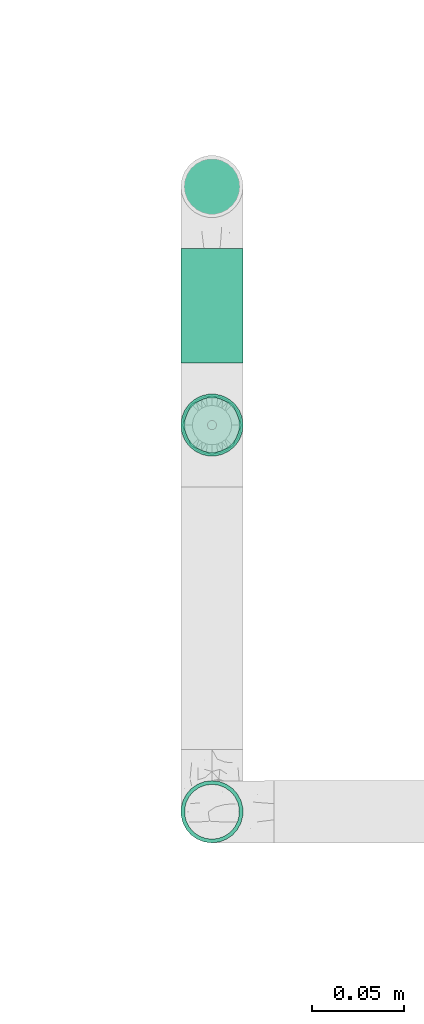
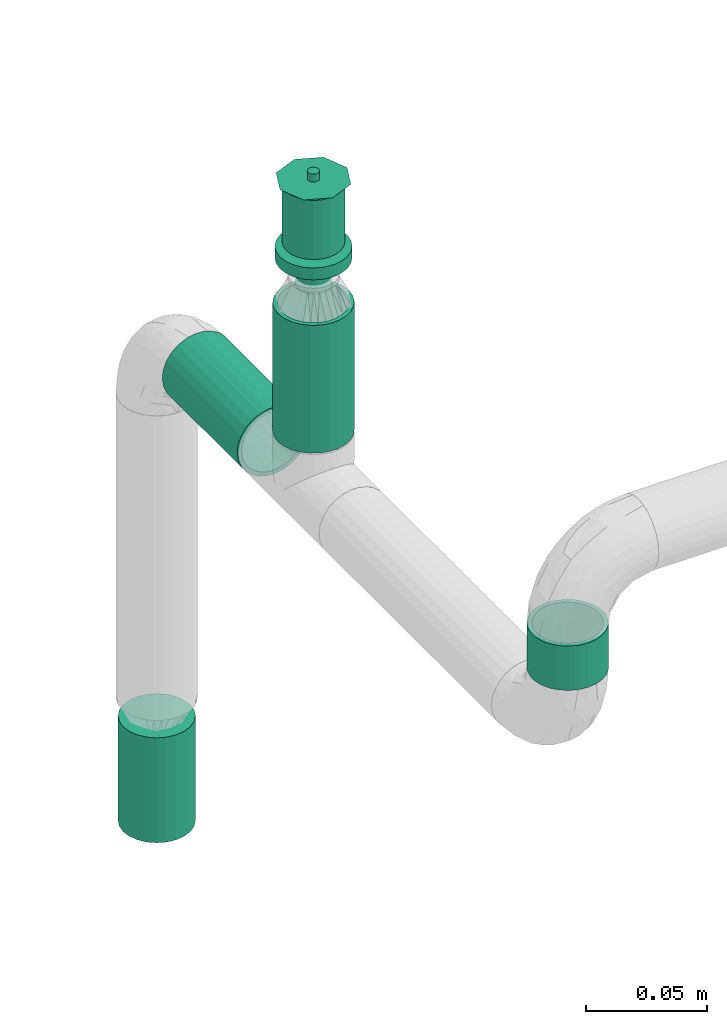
# One storey, part 118 of 157: 3 flow segments, 2 flow terminals.
"""IFC2X3 building model written with IfcOpenShell, lengths in millimetres."""

import ifcopenshell
import ifcopenshell.guid

model = None  # the IFC model being written
_history = None  # IfcOwnerHistory: only IFC2X3 demands one
_inside = {}  # id of a spatial element -> (the spatial element, [elements in it])
_under = {}  # id of a project, library or spatial element -> (it, [spatial elements below it])
_declared = {}  # id of a project -> (the project, [libraries it declares])
_typed = {}  # id of a type object -> (the type object, [elements of that type])
_made_of = {}  # id of a material, layer set ... -> (it, [elements and type objects made of it])


def new_model(schema):
    """Start an empty IFC model of exactly this schema.

    Asked for "IFC4X3", IfcOpenShell would pick the latest addendum, in which some entities
    have other attributes; the version numbers below select the first issue.
    IFC2X3 requires an IfcOwnerHistory on every rooted entity: one is made here for all.
    """
    global model, _history
    if schema == "IFC4X3":
        model = ifcopenshell.file(schema_version=(4, 3, 0, 0))
    else:
        model = ifcopenshell.file(schema=schema)
    _inside.clear()
    _under.clear()
    _declared.clear()
    _typed.clear()
    _made_of.clear()
    _history = None
    if model.schema == "IFC2X3":
        org = make("IfcOrganization", Name="unknown")
        user = make(
            "IfcPersonAndOrganization",
            ThePerson=make("IfcPerson", FamilyName="unknown"),
            TheOrganization=org,
        )
        app = make(
            "IfcApplication",
            ApplicationDeveloper=org,
            Version="unknown",
            ApplicationFullName="unknown",
            ApplicationIdentifier="unknown",
        )
        _history = make(
            "IfcOwnerHistory",
            OwningUser=user,
            OwningApplication=app,
            ChangeAction="ADDED",
            CreationDate=0,
        )
    return model


def make(cls, **values):
    """One entity of the class cls with the attributes given. An attribute that is None is left unset."""
    return model.create_entity(
        cls, **{name: value for name, value in values.items() if value is not None}
    )


def entity(cls, *values):
    """Any entity or typed value of the class cls, its attributes in the order of the schema. None: left unset."""
    e = model.create_entity(cls)
    for i, value in enumerate(values):
        if value is not None:
            e[i] = value
    return e


def rooted(cls, **values):
    """An entity with a GlobalId (a new one), such as an element, a storey or a relation."""
    return make(cls, GlobalId=ifcopenshell.guid.new(), OwnerHistory=_history, **values)


def si_unit(unit_type, name, prefix=None):
    """IfcSIUnit, for example si_unit("LENGTHUNIT", "METRE", prefix="MILLI")."""
    return make("IfcSIUnit", UnitType=unit_type, Prefix=prefix, Name=name)


def converted_unit(unit_type, name, factor, base, dimensions=None, offset=None):
    """IfcConversionBasedUnit, such as the inch: factor (a typed value) times the base unit."""
    return make(
        "IfcConversionBasedUnit"
        if offset is None
        else "IfcConversionBasedUnitWithOffset",
        ConversionOffset=offset,
        Dimensions=None
        if dimensions is None
        else entity("IfcDimensionalExponents", *dimensions),
        UnitType=unit_type,
        Name=name,
        ConversionFactor=make(
            "IfcMeasureWithUnit", ValueComponent=factor, UnitComponent=base
        ),
    )


def derived_unit(unit_type, elements):
    """IfcDerivedUnit: a product of units, each with its exponent."""
    return make(
        "IfcDerivedUnit",
        Elements=[
            make("IfcDerivedUnitElement", Unit=unit, Exponent=power)
            for unit, power in elements
        ],
        UnitType=unit_type,
    )


def assignment(units):
    """IfcUnitAssignment: the units of a project."""
    return None if units is None else make("IfcUnitAssignment", Units=units)


def point(xyz):
    """IfcCartesianPoint."""
    return None if xyz is None else make("IfcCartesianPoint", Coordinates=xyz)


def direction(xyz):
    """IfcDirection."""
    return None if xyz is None else make("IfcDirection", DirectionRatios=xyz)


def frame(location, z_axis=None, x_axis=None):
    """IfcAxis2Placement3D, a coordinate frame: its origin and axes. An axis left out is left unset."""
    return make(
        "IfcAxis2Placement3D",
        Location=point(location),
        Axis=direction(z_axis),
        RefDirection=direction(x_axis),
    )


def frame_2d(location, x_axis=None):
    """IfcAxis2Placement2D, a coordinate frame in the plane: its origin and x axis."""
    return make(
        "IfcAxis2Placement2D", Location=point(location), RefDirection=direction(x_axis)
    )


def origin_with_axes():
    """The frame at (0, 0, 0) with the z axis (0, 0, 1) and the x axis (1, 0, 0) written out."""
    return frame((0.0, 0.0, 0.0), z_axis=(0.0, 0.0, 1.0), x_axis=(1.0, 0.0, 0.0))


def origin_2d_with_axis():
    """The frame at (0, 0) in the plane with the x axis (1, 0) written out."""
    return frame_2d((0.0, 0.0), x_axis=(1.0, 0.0))


def place(relative_to, where):
    """IfcLocalPlacement: puts the frame where relative to a parent placement (None: the world)."""
    return make(
        "IfcLocalPlacement", PlacementRelTo=relative_to, RelativePlacement=where
    )


def context(
    kind, dimensions, precision=None, world=None, true_north=None, identifier=None
):
    """IfcGeometricRepresentationContext, for example the 3D "Model" context."""
    return make(
        "IfcGeometricRepresentationContext",
        ContextIdentifier=identifier,
        ContextType=kind,
        CoordinateSpaceDimension=dimensions,
        Precision=precision,
        WorldCoordinateSystem=world,
        TrueNorth=true_north,
    )


def subcontext(parent, identifier, kind, view, scale=None):
    """IfcGeometricRepresentationSubContext, for example "Body" below "Model"."""
    return make(
        "IfcGeometricRepresentationSubContext",
        ContextIdentifier=identifier,
        ContextType=kind,
        ParentContext=parent,
        TargetScale=scale,
        TargetView=view,
    )


def project(units=None, contexts=None):
    """IfcProject with its units and contexts."""
    return rooted(
        "IfcProject",
        Name="project",
        RepresentationContexts=contexts,
        UnitsInContext=assignment(units),
    )


def spatial(cls, under=None, at=None, **own):
    """A site, building, storey or space (cls), placed at a placement, below another one or the project."""
    s = rooted(cls, ObjectPlacement=at, **own)
    if under is not None:
        _under.setdefault(under.id(), (under, []))[1].append(s)
    return s


def profile(cls, at=None, kind="AREA", **sizes):
    """A parametric profile (cls). Its sizes go by their IFC names, for example OverallWidth=200.0."""
    return make(cls, ProfileType=kind, Position=at, **sizes)


def hollow_circle(**sizes):
    """IfcCircleHollowProfileDef."""
    return profile("IfcCircleHollowProfileDef", **sizes)


def extrude(swept, where, along, depth):
    """IfcExtrudedAreaSolid: the profile swept, set in the frame where, extruded along a direction by depth."""
    return make(
        "IfcExtrudedAreaSolid",
        SweptArea=swept,
        Position=where,
        ExtrudedDirection=direction(along),
        Depth=depth,
    )


def faces_of(points, faces, orient=None, outer=None):
    """IfcFace entities. A face is a list of loops; a loop is a list of indices into points, from 0.

    orient and outer hold one flag for each loop. By default every Orientation is true, the
    first loop of a face is its IfcFaceOuterBound and the others are IfcFaceBound.
    """
    made = []
    for i, loops in enumerate(faces):
        bounds = []
        for j, loop in enumerate(loops):
            is_outer = j == 0 if outer is None else outer[i][j]
            bounds.append(
                make(
                    "IfcFaceOuterBound" if is_outer else "IfcFaceBound",
                    Bound=make("IfcPolyLoop", Polygon=[points[k] for k in loop]),
                    Orientation=True if orient is None else orient[i][j],
                )
            )
        made.append(make("IfcFace", Bounds=bounds))
    return made


def open_shell(faces, orient=None, outer=None):
    """The faces of one IfcOpenShell. surface_model builds it on its shared points."""
    return ("IfcOpenShell", faces, orient, outer)


def surface_model(cls, points, shells):
    """IfcFaceBasedSurfaceModel or IfcShellBasedSurfaceModel (cls): surfaces that need not close."""
    shared = [point(p) for p in points]
    made = [make(c, CfsFaces=faces_of(shared, fs, o, b)) for c, fs, o, b in shells]
    if cls == "IfcFaceBasedSurfaceModel":
        return make(cls, FbsmFaces=made)
    return make(cls, SbsmBoundary=made)


def shape(context_of_items, identifier, shape_type, items):
    """IfcShapeRepresentation: the items that make up one representation, for example the "Body"."""
    return make(
        "IfcShapeRepresentation",
        ContextOfItems=context_of_items,
        RepresentationIdentifier=identifier,
        RepresentationType=shape_type,
        Items=items,
    )


def source(mapping_origin, context_of_items, identifier, shape_type, items):
    """IfcRepresentationMap: a shape defined once, which mapped items show again and again."""
    return make(
        "IfcRepresentationMap",
        MappingOrigin=mapping_origin,
        MappedRepresentation=shape(context_of_items, identifier, shape_type, items),
    )


def transform(
    local_origin,
    x_axis=None,
    y_axis=None,
    z_axis=None,
    scale=None,
    scale2=None,
    scale3=None,
    uniform=True,
):
    """IfcCartesianTransformationOperator3D, or its non-uniform kind. x_axis, y_axis, z_axis: its Axis1, 2, 3."""
    if uniform:
        return make(
            "IfcCartesianTransformationOperator3D",
            Axis1=direction(x_axis),
            Axis2=direction(y_axis),
            LocalOrigin=point(local_origin),
            Scale=scale,
            Axis3=direction(z_axis),
        )
    return make(
        "IfcCartesianTransformationOperator3DnonUniform",
        Axis1=direction(x_axis),
        Axis2=direction(y_axis),
        LocalOrigin=point(local_origin),
        Scale=scale,
        Axis3=direction(z_axis),
        Scale2=scale2,
        Scale3=scale3,
    )


def mapped(mapping_source, mapping_target):
    """IfcMappedItem: shows the shape of a source again, moved by a transform."""
    return make(
        "IfcMappedItem", MappingSource=mapping_source, MappingTarget=mapping_target
    )


def made_of(thing, what):
    """Note that an element or type object is made of a material, layer set ...; save() writes the relation."""
    if what is not None:
        _made_of.setdefault(what.id(), (what, []))[1].append(thing)
    return thing


def type_object(cls, material=None, **own):
    """A type object (cls), such as IfcWallType, which elements share."""
    return made_of(rooted(cls, **own), material)


def element(
    cls,
    number,
    at=None,
    inside=None,
    cuts=None,
    type_object=None,
    material=None,
    context=None,
    identifier="Body",
    shape_type=None,
    held_by="IfcProductDefinitionShape",
    body=None,
    shapes=None,
    **own,
):
    """One element of the class cls, such as IfcWall. Its Tag is "e" and its number.

    at: its placement. inside: the storey or other place that contains it. cuts: it is an
    opening in that element (IfcRelVoidsElement). A single representation is given by context,
    identifier, shape_type and body (its items); several are given by shapes. held_by: the class
    of the entity that holds the representations. save() writes the other relations.
    """
    e = rooted(cls, Tag="e%d" % number, ObjectPlacement=at, **own)
    if body is not None:
        shapes = [shape(context, identifier, shape_type, body)]
    if shapes is not None:
        e.Representation = make(held_by, Representations=shapes)
    if inside is not None:
        _inside.setdefault(inside.id(), (inside, []))[1].append(e)
    if cuts is not None:
        rooted(
            "IfcRelVoidsElement", RelatingBuildingElement=cuts, RelatedOpeningElement=e
        )
    if type_object is not None:
        _typed.setdefault(type_object.id(), (type_object, []))[1].append(e)
    return made_of(e, material)


def aggregate(whole, parts):
    """IfcRelAggregates: a whole, such as a stair, and the parts it consists of."""
    return rooted("IfcRelAggregates", RelatingObject=whole, RelatedObjects=parts)


def save(model, path):
    """Write the relations noted so far, then the file.

    IfcRelAggregates (storeys below a building ...), IfcRelContainedInSpatialStructure (elements
    in a storey), IfcRelDefinesByType, IfcRelAssociatesMaterial and IfcRelDeclares: one each for
    every whole, place, type object, material and project.
    """
    for whole, parts in _under.values():
        aggregate(whole, parts)
    for where, things in _inside.values():
        rooted(
            "IfcRelContainedInSpatialStructure",
            RelatedElements=things,
            RelatingStructure=where,
        )
    for kind, things in _typed.values():
        rooted("IfcRelDefinesByType", RelatedObjects=things, RelatingType=kind)
    for what, things in _made_of.values():
        rooted("IfcRelAssociatesMaterial", RelatedObjects=things, RelatingMaterial=what)
    for by, libraries in _declared.values():
        rooted("IfcRelDeclares", RelatingContext=by, RelatedDefinitions=libraries)
    model.write(path)


model = new_model("IFC2X3")

# Units and contexts
model_context = context("Model", 3, precision=0.01, world=frame((0.0, 4.29681676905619e-09, 0.0)), true_north=direction((4.01073788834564e-13, 1.0)))
plan_context = context("Plan", 3, precision=0.01, world=frame((0.0, 4.29681676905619e-09, 0.0)), true_north=direction((4.01073788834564e-13, 1.0)))
body_context = subcontext(model_context, "Body", "Model", "MODEL_VIEW")
ifc_project = project(units=[converted_unit("PLANEANGLEUNIT", "DEGREE", entity("IfcPositiveLengthMeasure", 0.0174532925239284), si_unit("PLANEANGLEUNIT", "RADIAN"), dimensions=[0, 0, 0, 0, 0, 0, 0]), si_unit("AREAUNIT", "SQUARE_METRE"), si_unit("LENGTHUNIT", "METRE", prefix="MILLI"), si_unit("MASSUNIT", "GRAM", prefix="KILO"), si_unit("POWERUNIT", "WATT"), si_unit("PRESSUREUNIT", "PASCAL"), si_unit("FORCEUNIT", "NEWTON", prefix="KILO"), si_unit("ELECTRICCURRENTUNIT", "AMPERE"), si_unit("THERMODYNAMICTEMPERATUREUNIT", "DEGREE_CELSIUS"), si_unit("TIMEUNIT", "SECOND"), si_unit("VOLUMEUNIT", "CUBIC_METRE"), derived_unit("LINEARVELOCITYUNIT", [(si_unit("LENGTHUNIT", "METRE"), 1), (si_unit("TIMEUNIT", "SECOND"), -1)]), derived_unit("VOLUMETRICFLOWRATEUNIT", [(si_unit("VOLUMEUNIT", "CUBIC_METRE"), 1), (si_unit("TIMEUNIT", "SECOND"), -1)]), derived_unit("THERMALTRANSMITTANCEUNIT", [(si_unit("POWERUNIT", "WATT"), 1), (si_unit("THERMODYNAMICTEMPERATUREUNIT", "KELVIN"), -1), (si_unit("AREAUNIT", "SQUARE_METRE"), -1)])], contexts=[model_context, plan_context])

# Site, building, storey
site_placement = place(None, frame((0.0, -4.29681676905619e-09, 0.0), z_axis=(0.0, 0.0, 1.0), x_axis=(1.0, 0.0, 0.0)))
site = spatial("IfcSite", under=ifc_project, at=site_placement, CompositionType="ELEMENT")
building_placement = place(site_placement, frame((0.0, 4.29681676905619e-09, 0.0), z_axis=(0.0, 0.0, 1.0), x_axis=(1.0, 0.0, 0.0)))
building = spatial("IfcBuilding", under=site, at=building_placement, Name="mc-building", CompositionType="ELEMENT")
storey_placement = place(building_placement, frame((0.0, 0.0, 204000.0), z_axis=(0.0, 0.0, 1.0), x_axis=(1.0, 0.0, 0.0)))
storey = spatial("IfcBuildingStorey", under=building, at=storey_placement, Name="Nivå D", CompositionType="ELEMENT", Elevation=204000.0)

# Flow segments
pipe_segment_type = type_object("IfcPipeSegmentType", Name="Stålrør normaltykke", PredefinedType="RIGIDSEGMENT")
shared_shape_1 = source(origin_with_axes(), body_context, "Body", "SweptSolid", [
    extrude(hollow_circle(Radius=16.9, WallThickness=2.0, at=origin_2d_with_axis()), frame((0.0, 0.0, 0.0), z_axis=(1.0, 0.0, 0.0), x_axis=(0.0, 1.0, 0.0)), (0.0, 0.0, 1.0), 22.4),
])
flow_segment_1_placement = place(storey_placement, frame((527500.0, 416260.00006, 2633.79999999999), z_axis=(-1.0, 0.0, 0.0), x_axis=(0.0, 0.0, 1.0)))
element("IfcFlowSegment", 1, at=flow_segment_1_placement, inside=storey, type_object=pipe_segment_type, Name="Stålrør normaltykke", context=body_context, shape_type="MappedRepresentation", body=[
    mapped(shared_shape_1, transform((0.0, 0.0, 0.0), scale=1.0)),
])
shared_shape_2 = source(origin_with_axes(), body_context, "Body", "SweptSolid", [
    extrude(hollow_circle(Radius=16.9, WallThickness=2.0, at=origin_2d_with_axis()), frame((0.0, 0.0, 0.0), z_axis=(1.0, 0.0, 0.0), x_axis=(0.0, 1.0, 0.0)), (0.0, 0.0, 1.0), 64.6),
])
flow_segment_2_placement = place(storey_placement, frame((527500.0, 416470.2949, 2690.64799999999), z_axis=(0.0, 1.0, 0.0), x_axis=(0.0, 0.0, -1.0)))
element("IfcFlowSegment", 2, at=flow_segment_2_placement, inside=storey, type_object=pipe_segment_type, Name="Stålrør normaltykke", context=body_context, shape_type="MappedRepresentation", body=[
    mapped(shared_shape_2, transform((0.0, 0.0, 0.0), scale=1.0)),
])
shared_shape_3 = source(origin_with_axes(), body_context, "Body", "SweptSolid", [
    extrude(hollow_circle(Radius=16.9, WallThickness=2.0, at=origin_2d_with_axis()), frame((0.0, 0.0, 0.0), z_axis=(1.0, 0.0, 0.0), x_axis=(0.0, 1.0, 0.0)), (0.0, 0.0, 1.0), 62.1),
])
flow_segment_3_placement = place(storey_placement, frame((527500.0, 416566.20005, 2600.0), z_axis=(0.0, 0.0, 1.0), x_axis=(0.0, -1.0, 0.0)))
element("IfcFlowSegment", 3, at=flow_segment_3_placement, inside=storey, type_object=pipe_segment_type, Name="Stålrør normaltykke", context=body_context, shape_type="MappedRepresentation", body=[
    mapped(shared_shape_3, transform((0.0, 0.0, 0.0), scale=1.0)),
])

# Flow terminals
fire_suppression_terminal_type_1 = type_object("IfcFireSuppressionTerminalType", Name="SP-15-K80-68DGR-STD-HIMLING", PredefinedType="NOTDEFINED")
shared_shape_4 = source(origin_with_axes(), body_context, "Body", "SurfaceModel", [
    surface_model("IfcShellBasedSurfaceModel", [(4.1411, -15.45481, 53.0), (8.0, -13.85641, 53.0), (11.31371, -11.31371, 53.0), (-8.0, -13.85641, 53.0), (15.45481, -4.1411, 53.0), (16.0, 0.0, 53.0), (13.85641, -8.0, 53.0), (0.0, -16.0, 53.0), (-4.1411, -15.45481, 53.0), (-13.85641, -8.0, 53.0), (-11.31371, -11.31371, 53.0), (-15.45481, -4.1411, 53.0), (15.45481, 4.1411, 53.0), (13.85641, 8.0, 53.0), (11.31371, 11.31371, 53.0), (-4.1411, 15.45481, 53.0), (8.0, 13.85641, 53.0), (4.1411, 15.45481, 53.0), (0.0, 16.0, 53.0), (-13.85641, 8.0, 53.0), (-15.45481, 4.1411, 53.0), (-16.0, 0.0, 53.0), (-11.31371, 11.31371, 53.0), (-8.0, 13.85641, 53.0), (0.0, 16.0, 0.0), (4.1411, 15.45481, 0.0), (8.0, 13.85641, 0.0), (-4.1411, 15.45481, 0.0), (11.31371, 11.31371, 0.0), (13.85641, 8.0, 0.0), (15.45481, 4.1411, 0.0), (-15.45481, -4.1411, 0.0), (-11.31371, 11.31371, 0.0), (-8.0, 13.85641, 0.0), (-13.85641, 8.0, 0.0), (-15.45481, 4.1411, 0.0), (-16.0, 0.0, 0.0), (4.1411, -15.45481, 0.0), (16.0, 0.0, 0.0), (15.45481, -4.1411, 0.0), (13.85641, -8.0, 0.0), (11.31371, -11.31371, 0.0), (8.0, -13.85641, 0.0), (-8.0, -13.85641, 0.0), (-13.85641, -8.0, 0.0), (-11.31371, -11.31371, 0.0), (0.0, -16.0, 0.0), (-4.1411, -15.45481, 0.0)], [open_shell([[[0, 1, 2]], [[3, 0, 2]], [[4, 5, 2]], [[4, 2, 6]], [[3, 2, 5]], [[7, 3, 8]], [[7, 0, 3]], [[3, 9, 10]], [[9, 3, 11]], [[5, 11, 3]], [[5, 12, 11]], [[12, 13, 14]], [[15, 12, 14]], [[16, 17, 18]], [[14, 16, 15]], [[18, 15, 16]], [[11, 19, 20]], [[21, 11, 20]], [[22, 15, 23]], [[15, 22, 19]], [[19, 11, 15]], [[11, 12, 15]], [[24, 25, 26]], [[27, 24, 26]], [[28, 29, 30]], [[27, 26, 28]], [[27, 28, 31]], [[27, 32, 33]], [[32, 27, 34]], [[34, 31, 35]], [[31, 34, 27]], [[35, 31, 36]], [[28, 30, 31]], [[37, 38, 39]], [[37, 39, 40]], [[41, 42, 37]], [[41, 37, 40]], [[38, 37, 43]], [[44, 43, 45]], [[43, 44, 31]], [[43, 46, 47]], [[43, 31, 38]], [[37, 46, 43]], [[38, 31, 30]], [[11, 31, 44]], [[45, 9, 44]], [[3, 43, 47]], [[45, 43, 10]], [[8, 47, 46]], [[31, 21, 36]], [[31, 11, 21]], [[44, 9, 11]], [[45, 10, 9]], [[3, 10, 43]], [[47, 8, 3]], [[46, 7, 8]], [[0, 37, 42]], [[41, 1, 42]], [[6, 40, 39]], [[41, 40, 2]], [[4, 39, 38]], [[37, 0, 7]], [[42, 1, 0]], [[41, 2, 1]], [[40, 6, 2]], [[4, 6, 39]], [[38, 5, 4]], [[37, 7, 46]], [[12, 38, 30]], [[13, 30, 29]], [[16, 26, 25]], [[17, 25, 24]], [[30, 13, 12]], [[12, 5, 38]], [[28, 14, 13]], [[28, 26, 14]], [[14, 26, 16]], [[25, 17, 16]], [[28, 13, 29]], [[24, 18, 17]], [[15, 27, 33]], [[32, 23, 33]], [[19, 34, 35]], [[32, 34, 22]], [[20, 35, 36]], [[27, 15, 18]], [[33, 23, 15]], [[32, 22, 23]], [[34, 19, 22]], [[20, 19, 35]], [[36, 21, 20]], [[27, 18, 24]]])]),
])
flow_terminal_1_placement = place(storey_placement, frame((527500.0, 416600.0, 2403.04800000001), z_axis=(0.0, 0.0, -1.0), x_axis=(1.0, 0.0, 0.0)))
element("IfcFlowTerminal", 4, at=flow_terminal_1_placement, inside=storey, type_object=fire_suppression_terminal_type_1, Name="SP-15-K80-68DGR-STD-HIMLING", context=body_context, shape_type="MappedRepresentation", body=[
    mapped(shared_shape_4, transform((0.0, 0.0, 0.0), scale=1.0)),
])
fire_suppression_terminal_type_2 = type_object("IfcFireSuppressionTerminalType", Name="68DGR-STD-STÅENDE", PredefinedType="NOTDEFINED")
shared_shape_5 = source(origin_with_axes(), body_context, "Body", "SurfaceModel", [
    surface_model("IfcShellBasedSurfaceModel", [(3.36465, -12.55704, 51.0), (6.5, -11.25833, 51.0), (9.19239, -9.19239, 51.0), (12.55704, -3.36465, 51.0), (-11.25833, -6.5, 51.0), (11.25833, -6.5, 51.0), (-13.0, 0.0, 51.0), (0.0, -13.0, 51.0), (-6.5, -11.25833, 51.0), (-3.36465, -12.55704, 51.0), (-9.19239, -9.19239, 51.0), (-12.55704, -3.36465, 51.0), (13.0, 0.0, 51.0), (12.55704, 3.36465, 51.0), (11.25833, 6.5, 51.0), (9.19239, 9.19239, 51.0), (6.5, 11.25833, 51.0), (3.36465, 12.55704, 51.0), (0.0, 13.0, 51.0), (-3.36465, 12.55704, 51.0), (-12.55704, 3.36465, 51.0), (-9.19239, 9.19239, 51.0), (-11.25833, 6.5, 51.0), (-6.5, 11.25833, 51.0), (0.0, 13.0, 21.14766), (3.36465, 12.55704, 21.14766), (6.5, 11.25833, 21.14766), (-3.36465, 12.55704, 21.14766), (9.19239, 9.19239, 21.14766), (11.25833, 6.5, 21.14766), (12.55704, 3.36465, 21.14766), (-12.55704, 3.36465, 21.14766), (-11.25833, -6.5, 21.14766), (-9.19239, 9.19239, 21.14766), (-6.5, 11.25833, 21.14766), (-11.25833, 6.5, 21.14766), (-13.0, 0.0, 21.14766), (12.55704, -3.36465, 21.14766), (9.19239, -9.19239, 21.14766), (11.25833, -6.5, 21.14766), (6.5, -11.25833, 21.14766), (3.36465, -12.55704, 21.14766), (-6.5, -11.25833, 21.14766), (-9.19239, -9.19239, 21.14766), (-12.55704, -3.36465, 21.14766), (0.0, -13.0, 21.14766), (-3.36465, -12.55704, 21.14766), (13.0, 0.0, 21.14766), (7.24444, -1.94114, 0.1), (1.94114, -7.24444, 0.1), (3.75, -6.49519, 0.1), (5.3033, -5.3033, 0.1), (-5.3033, -5.3033, 0.1), (6.49519, -3.75, 0.1), (5.3033, 5.3033, 0.1), (0.0, -7.5, 0.1), (-3.75, -6.49519, 0.1), (-1.94114, -7.24444, 0.1), (-7.24444, -1.94114, 0.1), (-6.49519, -3.75, 0.1), (-7.24444, 1.94114, 0.1), (7.5, 0.0, 0.1), (6.49519, 3.75, 0.1), (-6.49519, 3.75, 0.1), (1.94114, 7.24444, 0.1), (0.0, 7.5, 0.1), (3.75, 6.49519, 0.1), (-7.5, 0.0, 0.1), (-5.3033, 5.3033, 0.1), (-1.94114, 7.24444, 0.1), (-3.75, 6.49519, 0.1), (7.24444, 1.94114, 0.1), (1.94114, 7.24444, -0.1), (-6.49519, 3.75, -0.1), (0.0, 7.5, -0.1), (5.3033, 5.3033, -0.1), (3.75, 6.49519, -0.1), (6.49519, 3.75, -0.1), (7.24444, 1.94114, -0.1), (-1.94114, 7.24444, -0.1), (-5.3033, 5.3033, -0.1), (-3.75, 6.49519, -0.1), (-7.24444, 1.94114, -0.1), (-7.24444, -1.94114, -0.1), (-7.5, 0.0, -0.1), (7.5, 0.0, -0.1), (7.24444, -1.94114, -0.1), (-5.3033, -5.3033, -0.1), (1.94114, -7.24444, -0.1), (6.49519, -3.75, -0.1), (5.3033, -5.3033, -0.1), (3.75, -6.49519, -0.1), (-6.49519, -3.75, -0.1), (-3.75, -6.49519, -0.1), (0.0, -7.5, -0.1), (-1.94114, -7.24444, -0.1), (0.0, -2.5, 51.0), (-2.5, 0.0, 51.0), (0.0, 2.5, 51.0), (2.5, 0.0, 51.0), (0.0, -16.0, 53.0), (11.31371, -11.31371, 53.0), (-11.31371, -11.31371, 53.0), (-16.0, 0.0, 53.0), (16.0, 0.0, 53.0), (11.31371, 11.31371, 53.0), (0.0, 16.0, 53.0), (-11.31371, 11.31371, 53.0), (1.25, -2.16506, 57.0), (0.0, -2.5, 57.0), (0.64705, -2.41481, 57.0), (2.41481, -0.64705, 57.0), (1.76777, -1.76777, 57.0), (-2.41481, -0.64705, 57.0), (-2.5, 0.0, 57.0), (2.16506, -1.25, 57.0), (-1.25, -2.16506, 57.0), (-0.64705, -2.41481, 57.0), (-1.76777, -1.76777, 57.0), (-2.16506, -1.25, 57.0), (2.5, 0.0, 57.0), (2.41481, 0.64705, 57.0), (2.16506, 1.25, 57.0), (1.76777, 1.76777, 57.0), (0.64705, 2.41481, 57.0), (1.25, 2.16506, 57.0), (-1.76777, 1.76777, 57.0), (0.0, 2.5, 57.0), (-2.16506, 1.25, 57.0), (-2.41481, 0.64705, 57.0), (-0.64705, 2.41481, 57.0), (-1.25, 2.16506, 57.0), (1.25, 2.16506, 51.0), (1.76777, 1.76777, 51.0), (1.15, 1.99186, 51.0), (0.59528, 2.22163, 51.0), (0.64705, 2.41481, 51.0), (0.0, 2.3, 51.0), (1.62635, 1.62635, 51.0), (2.41481, 0.64705, 51.0), (2.3, 0.0, 51.0), (2.22163, 0.59528, 51.0), (2.16506, 1.25, 51.0), (1.99186, 1.15, 51.0), (-0.59528, 2.22163, 51.0), (-0.64705, 2.41481, 51.0), (-1.15, 1.99186, 51.0), (-1.76777, 1.76777, 51.0), (-1.25, 2.16506, 51.0), (-1.62635, 1.62635, 51.0), (-1.99186, 1.15, 51.0), (-2.16506, 1.25, 51.0), (-2.22163, 0.59528, 51.0), (-2.41481, 0.64705, 51.0), (-2.3, 0.0, 51.0), (2.41481, -0.64705, 51.0), (2.22163, -0.59528, 51.0), (1.99186, -1.15, 51.0), (2.16506, -1.25, 51.0), (1.62635, -1.62635, 51.0), (1.76777, -1.76777, 51.0), (1.25, -2.16506, 51.0), (1.15, -1.99186, 51.0), (0.59528, -2.22163, 51.0), (0.64705, -2.41481, 51.0), (0.0, -2.3, 51.0), (-2.16506, -1.25, 51.0), (-1.99186, -1.15, 51.0), (-1.76777, -1.76777, 51.0), (-1.62635, -1.62635, 51.0), (-2.41481, -0.64705, 51.0), (-2.22163, -0.59528, 51.0), (-0.59528, -2.22163, 51.0), (-0.64705, -2.41481, 51.0), (-1.15, -1.99186, 51.0), (-1.25, -2.16506, 51.0), (1.62635, -1.62635, 56.8), (1.15, -1.99186, 56.8), (0.59528, -2.22163, 56.8), (0.0, -2.3, 56.8), (2.22163, 0.59528, 56.8), (1.99186, -1.15, 56.8), (2.22163, -0.59528, 56.8), (-0.59528, -2.22163, 56.8), (-1.15, -1.99186, 56.8), (-1.62635, -1.62635, 56.8), (-1.99186, -1.15, 56.8), (-2.22163, -0.59528, 56.8), (-1.99186, 1.15, 56.8), (2.3, 0.0, 56.8), (1.62635, 1.62635, 56.8), (1.99186, 1.15, 56.8), (1.15, 1.99186, 56.8), (0.0, 2.3, 56.8), (0.59528, 2.22163, 56.8), (-2.22163, 0.59528, 56.8), (-2.3, 0.0, 56.8), (-1.15, 1.99186, 56.8), (-0.59528, 2.22163, 56.8), (-1.62635, 1.62635, 56.8), (4.1411, -15.45481, 19.0), (8.0, -13.85641, 19.0), (11.31371, -11.31371, 19.0), (-8.0, -13.85641, 19.0), (15.45481, -4.1411, 19.0), (16.0, 0.0, 19.0), (13.85641, -8.0, 19.0), (0.0, -16.0, 19.0), (-4.1411, -15.45481, 19.0), (-13.85641, -8.0, 19.0), (-11.31371, -11.31371, 19.0), (-15.45481, -4.1411, 19.0), (15.45481, 4.1411, 19.0), (13.85641, 8.0, 19.0), (11.31371, 11.31371, 19.0), (-4.1411, 15.45481, 19.0), (8.0, 13.85641, 19.0), (4.1411, 15.45481, 19.0), (0.0, 16.0, 19.0), (-13.85641, 8.0, 19.0), (-15.45481, 4.1411, 19.0), (-16.0, 0.0, 19.0), (-11.31371, 11.31371, 19.0), (-8.0, 13.85641, 19.0), (0.0, 16.0, 13.0), (4.1411, 15.45481, 13.0), (8.0, 13.85641, 13.0), (-4.1411, 15.45481, 13.0), (11.31371, 11.31371, 13.0), (13.85641, 8.0, 13.0), (15.45481, 4.1411, 13.0), (-15.45481, -4.1411, 13.0), (-11.31371, 11.31371, 13.0), (-8.0, 13.85641, 13.0), (-13.85641, 8.0, 13.0), (-15.45481, 4.1411, 13.0), (-16.0, 0.0, 13.0), (4.1411, -15.45481, 13.0), (16.0, 0.0, 13.0), (15.45481, -4.1411, 13.0), (13.85641, -8.0, 13.0), (11.31371, -11.31371, 13.0), (8.0, -13.85641, 13.0), (-8.0, -13.85641, 13.0), (-13.85641, -8.0, 13.0), (-11.31371, -11.31371, 13.0), (0.0, -16.0, 13.0), (-4.1411, -15.45481, 13.0), (7.24444, -1.94114, 13.0), (1.94114, -7.24444, 13.0), (3.75, -6.49519, 13.0), (5.3033, -5.3033, 13.0), (-5.3033, -5.3033, 13.0), (6.49519, -3.75, 13.0), (5.3033, 5.3033, 13.0), (0.0, -7.5, 13.0), (-3.75, -6.49519, 13.0), (-1.94114, -7.24444, 13.0), (-7.24444, -1.94114, 13.0), (-6.49519, -3.75, 13.0), (-7.24444, 1.94114, 13.0), (7.5, 0.0, 13.0), (6.49519, 3.75, 13.0), (-6.49519, 3.75, 13.0), (1.94114, 7.24444, 13.0), (0.0, 7.5, 13.0), (3.75, 6.49519, 13.0), (-7.5, 0.0, 13.0), (-5.3033, 5.3033, 13.0), (-1.94114, 7.24444, 13.0), (-3.75, 6.49519, 13.0), (7.24444, 1.94114, 13.0), (3.75, 6.49519, 0.0), (5.3033, 5.3033, 0.0), (3.65, 6.32199, 0.0), (1.88938, 7.05126, 0.0), (0.0, 7.3, 0.0), (1.94114, 7.24444, 0.0), (0.0, 7.5, 0.0), (5.16188, 5.16188, 0.0), (7.24444, 1.94114, 0.0), (7.3, 0.0, 0.0), (7.05126, 1.88938, 0.0), (7.5, 0.0, 0.0), (6.49519, 3.75, 0.0), (6.32199, 3.65, 0.0), (-1.88938, 7.05126, 0.0), (-1.94114, 7.24444, 0.0), (-3.65, 6.32199, 0.0), (-5.3033, 5.3033, 0.0), (-3.75, 6.49519, 0.0), (-5.16188, 5.16188, 0.0), (-6.32199, 3.65, 0.0), (-6.49519, 3.75, 0.0), (-7.05126, 1.88938, 0.0), (-7.24444, 1.94114, 0.0), (-7.3, 0.0, 0.0), (-7.5, 0.0, 0.0), (7.24444, -1.94114, 0.0), (7.05126, -1.88938, 0.0), (6.32199, -3.65, 0.0), (6.49519, -3.75, 0.0), (5.16188, -5.16188, 0.0), (5.3033, -5.3033, 0.0), (3.75, -6.49519, 0.0), (3.65, -6.32199, 0.0), (1.88938, -7.05126, 0.0), (1.94114, -7.24444, 0.0), (0.0, -7.3, 0.0), (0.0, -7.5, 0.0), (-6.49519, -3.75, 0.0), (-6.32199, -3.65, 0.0), (-5.3033, -5.3033, 0.0), (-5.16188, -5.16188, 0.0), (-7.24444, -1.94114, 0.0), (-7.05126, -1.88938, 0.0), (-1.88938, -7.05126, 0.0), (-1.94114, -7.24444, 0.0), (-3.65, -6.32199, 0.0), (-3.75, -6.49519, 0.0), (1.88938, -7.05126, 12.8), (0.0, -7.3, 12.8), (3.65, -6.32199, 12.8), (5.16188, -5.16188, 12.8), (6.32199, -3.65, 12.8), (7.05126, 1.88938, 12.8), (7.05126, -1.88938, 12.8), (-5.16188, -5.16188, 12.8), (-1.88938, -7.05126, 12.8), (-3.65, -6.32199, 12.8), (-6.32199, -3.65, 12.8), (-7.05126, -1.88938, 12.8), (0.0, 7.3, 12.8), (7.3, 0.0, 12.8), (6.32199, 3.65, 12.8), (5.16188, 5.16188, 12.8), (3.65, 6.32199, 12.8), (1.88938, 7.05126, 12.8), (-6.32199, 3.65, 12.8), (-7.05126, 1.88938, 12.8), (-7.3, 0.0, 12.8), (-3.65, 6.32199, 12.8), (-1.88938, 7.05126, 12.8), (-5.16188, 5.16188, 12.8)], [open_shell([[[0, 1, 2]], [[0, 2, 3]], [[0, 3, 4]], [[3, 2, 5]], [[6, 4, 3]], [[7, 8, 9]], [[7, 0, 8]], [[8, 4, 10]], [[0, 4, 8]], [[4, 6, 11]], [[6, 3, 12]], [[13, 14, 15]], [[6, 13, 15]], [[16, 17, 18]], [[15, 16, 19]], [[18, 19, 16]], [[20, 21, 22]], [[20, 6, 15]], [[21, 19, 23]], [[19, 21, 20]], [[15, 19, 20]], [[13, 6, 12]], [[24, 25, 26]], [[27, 24, 26]], [[28, 29, 30]], [[26, 28, 31]], [[28, 32, 31]], [[27, 33, 34]], [[33, 27, 31]], [[33, 31, 35]], [[27, 26, 31]], [[31, 32, 36]], [[32, 28, 30]], [[32, 30, 37]], [[38, 37, 39]], [[38, 40, 41]], [[38, 41, 37]], [[32, 37, 41]], [[32, 42, 43]], [[44, 36, 32]], [[42, 45, 46]], [[42, 32, 41]], [[45, 42, 41]], [[30, 47, 37]], [[4, 32, 43]], [[8, 42, 46]], [[43, 42, 10]], [[9, 46, 45]], [[36, 11, 6]], [[11, 36, 44]], [[11, 44, 4]], [[44, 32, 4]], [[43, 10, 4]], [[8, 10, 42]], [[46, 9, 8]], [[45, 7, 9]], [[0, 41, 40]], [[38, 1, 40]], [[5, 39, 37]], [[38, 39, 2]], [[3, 37, 47]], [[41, 0, 7]], [[40, 1, 0]], [[38, 2, 1]], [[39, 5, 2]], [[3, 5, 37]], [[47, 12, 3]], [[41, 7, 45]], [[30, 13, 47]], [[29, 14, 30]], [[25, 24, 17]], [[15, 29, 28]], [[30, 14, 13]], [[13, 12, 47]], [[16, 26, 17]], [[16, 15, 28]], [[26, 25, 17]], [[15, 14, 29]], [[28, 26, 16]], [[24, 18, 17]], [[19, 27, 34]], [[33, 23, 34]], [[22, 35, 31]], [[33, 35, 21]], [[20, 31, 36]], [[27, 19, 18]], [[34, 23, 19]], [[33, 21, 23]], [[35, 22, 21]], [[20, 22, 31]], [[36, 6, 20]], [[27, 18, 24]], [[48, 49, 50]], [[48, 50, 51]], [[49, 48, 52]], [[48, 51, 53]], [[54, 52, 48]], [[55, 56, 57]], [[56, 55, 52]], [[52, 58, 59]], [[52, 55, 49]], [[52, 60, 58]], [[54, 48, 61]], [[62, 54, 61]], [[54, 63, 52]], [[64, 65, 54]], [[64, 54, 66]], [[63, 54, 65]], [[63, 60, 52]], [[67, 58, 60]], [[68, 69, 70]], [[69, 68, 63]], [[69, 63, 65]], [[71, 62, 61]], [[72, 73, 74]], [[75, 72, 76]], [[75, 77, 78]], [[72, 75, 73]], [[78, 73, 75]], [[79, 80, 81]], [[80, 79, 73]], [[74, 73, 79]], [[78, 82, 73]], [[82, 83, 84]], [[82, 78, 85]], [[86, 87, 85]], [[88, 86, 89]], [[90, 91, 88]], [[90, 88, 89]], [[87, 86, 88]], [[83, 87, 92]], [[83, 85, 87]], [[93, 94, 95]], [[94, 93, 87]], [[88, 94, 87]], [[85, 83, 82]], [[83, 58, 84]], [[92, 59, 83]], [[56, 87, 93]], [[92, 87, 52]], [[57, 93, 95]], [[83, 59, 58]], [[58, 67, 84]], [[57, 56, 93]], [[52, 87, 56]], [[52, 59, 92]], [[55, 57, 95]], [[95, 94, 55]], [[88, 49, 94]], [[91, 50, 88]], [[53, 90, 89]], [[91, 90, 51]], [[48, 89, 86]], [[91, 51, 50]], [[50, 49, 88]], [[61, 48, 86]], [[53, 89, 48]], [[53, 51, 90]], [[85, 61, 86]], [[94, 49, 55]], [[78, 71, 85]], [[77, 62, 78]], [[66, 75, 76]], [[77, 75, 54]], [[64, 76, 72]], [[78, 62, 71]], [[71, 61, 85]], [[64, 66, 76]], [[54, 75, 66]], [[54, 62, 77]], [[65, 64, 72]], [[72, 74, 65]], [[79, 69, 74]], [[81, 70, 79]], [[63, 80, 73]], [[81, 80, 68]], [[60, 73, 82]], [[81, 68, 70]], [[70, 69, 79]], [[67, 60, 82]], [[63, 73, 60]], [[63, 68, 80]], [[84, 67, 82]], [[74, 69, 65]], [[96, 97, 98]], [[98, 99, 96]], [[100, 101, 102]], [[103, 102, 101]], [[101, 104, 103]], [[104, 105, 106]], [[107, 103, 106]], [[106, 103, 104]], [[99, 98, 105]], [[105, 104, 99]], [[98, 106, 105]], [[98, 107, 106]], [[107, 98, 97]], [[103, 107, 97]], [[97, 96, 102]], [[102, 103, 97]], [[96, 100, 102]], [[96, 101, 100]], [[101, 96, 99]], [[104, 101, 99]], [[108, 109, 110]], [[111, 108, 112]], [[113, 108, 114]], [[111, 112, 115]], [[108, 111, 114]], [[109, 116, 117]], [[116, 109, 118]], [[118, 113, 119]], [[118, 109, 108]], [[108, 113, 118]], [[111, 120, 114]], [[121, 122, 123]], [[114, 121, 123]], [[114, 123, 124]], [[124, 123, 125]], [[126, 124, 127]], [[124, 128, 129]], [[129, 114, 124]], [[126, 130, 131]], [[128, 124, 126]], [[130, 126, 127]], [[121, 114, 120]], [[132, 133, 134]], [[132, 134, 135]], [[136, 135, 137]], [[135, 136, 132]], [[136, 137, 98]], [[134, 133, 138]], [[139, 140, 141]], [[140, 139, 99]], [[139, 141, 142]], [[138, 142, 143]], [[142, 138, 133]], [[143, 142, 141]], [[98, 144, 145]], [[98, 137, 144]], [[145, 144, 146]], [[147, 148, 149]], [[146, 148, 145]], [[149, 148, 146]], [[150, 151, 147]], [[151, 150, 152]], [[150, 147, 149]], [[153, 152, 154]], [[152, 153, 151]], [[153, 154, 97]], [[99, 155, 156]], [[156, 155, 157]], [[157, 158, 159]], [[158, 157, 155]], [[159, 158, 160]], [[160, 161, 162]], [[162, 161, 163]], [[163, 164, 165]], [[164, 163, 161]], [[165, 164, 96]], [[162, 159, 160]], [[166, 167, 168]], [[168, 167, 169]], [[167, 166, 170]], [[97, 171, 170]], [[170, 171, 167]], [[97, 154, 171]], [[172, 96, 173]], [[172, 173, 174]], [[169, 175, 168]], [[175, 169, 174]], [[175, 174, 173]], [[165, 96, 172]], [[156, 140, 99]], [[170, 113, 97]], [[166, 119, 170]], [[116, 168, 175]], [[166, 168, 118]], [[117, 175, 173]], [[170, 119, 113]], [[113, 114, 97]], [[117, 116, 175]], [[118, 168, 116]], [[118, 119, 166]], [[109, 117, 173]], [[173, 96, 109]], [[164, 110, 96]], [[161, 108, 164]], [[115, 160, 158]], [[161, 160, 112]], [[111, 158, 155]], [[161, 112, 108]], [[108, 110, 164]], [[120, 111, 155]], [[115, 158, 111]], [[115, 112, 160]], [[99, 120, 155]], [[96, 110, 109]], [[139, 121, 99]], [[142, 122, 139]], [[125, 133, 132]], [[142, 133, 123]], [[124, 132, 136]], [[139, 122, 121]], [[121, 120, 99]], [[124, 125, 132]], [[123, 133, 125]], [[123, 122, 142]], [[127, 124, 136]], [[136, 98, 127]], [[145, 130, 98]], [[148, 131, 145]], [[128, 147, 151]], [[148, 147, 126]], [[129, 151, 153]], [[148, 126, 131]], [[131, 130, 145]], [[114, 129, 153]], [[128, 151, 129]], [[128, 126, 147]], [[97, 114, 153]], [[98, 130, 127]], [[176, 177, 178]], [[176, 178, 179]], [[180, 176, 179]], [[181, 176, 182]], [[180, 182, 176]], [[183, 184, 179]], [[185, 179, 184]], [[186, 187, 185]], [[185, 187, 188]], [[179, 185, 188]], [[189, 182, 180]], [[190, 191, 180]], [[192, 190, 180]], [[193, 194, 192]], [[180, 193, 192]], [[188, 193, 180]], [[195, 188, 196]], [[196, 188, 187]], [[197, 198, 199]], [[188, 199, 198]], [[188, 198, 193]], [[180, 179, 188]], [[154, 187, 171]], [[171, 186, 167]], [[174, 169, 184]], [[185, 169, 167]], [[172, 174, 183]], [[187, 186, 171]], [[154, 196, 187]], [[174, 184, 183]], [[184, 169, 185]], [[167, 186, 185]], [[172, 183, 179]], [[179, 165, 172]], [[165, 178, 163]], [[163, 177, 162]], [[157, 159, 181]], [[176, 159, 162]], [[156, 157, 182]], [[177, 176, 162]], [[163, 178, 177]], [[156, 182, 189]], [[182, 157, 181]], [[159, 176, 181]], [[156, 189, 140]], [[179, 178, 165]], [[140, 180, 141]], [[141, 191, 143]], [[134, 138, 192]], [[190, 138, 143]], [[135, 134, 194]], [[180, 191, 141]], [[140, 189, 180]], [[134, 192, 194]], [[192, 138, 190]], [[143, 191, 190]], [[135, 194, 193]], [[193, 137, 135]], [[137, 198, 144]], [[144, 197, 146]], [[150, 149, 188]], [[199, 149, 146]], [[152, 150, 195]], [[197, 199, 146]], [[144, 198, 197]], [[152, 195, 196]], [[195, 150, 188]], [[149, 199, 188]], [[152, 196, 154]], [[193, 198, 137]], [[200, 201, 202]], [[203, 200, 202]], [[204, 205, 202]], [[204, 202, 206]], [[203, 202, 205]], [[207, 203, 208]], [[207, 200, 203]], [[203, 209, 210]], [[209, 203, 211]], [[205, 211, 203]], [[205, 212, 211]], [[212, 213, 214]], [[215, 212, 214]], [[216, 217, 218]], [[214, 216, 215]], [[218, 215, 216]], [[211, 219, 220]], [[221, 211, 220]], [[222, 215, 223]], [[215, 222, 219]], [[219, 211, 215]], [[211, 212, 215]], [[224, 225, 226]], [[227, 224, 226]], [[228, 229, 230]], [[227, 226, 228]], [[227, 228, 231]], [[227, 232, 233]], [[232, 227, 234]], [[234, 231, 235]], [[231, 234, 227]], [[235, 231, 236]], [[228, 230, 231]], [[237, 238, 239]], [[237, 239, 240]], [[241, 242, 237]], [[241, 237, 240]], [[238, 237, 243]], [[244, 243, 245]], [[243, 244, 231]], [[243, 246, 247]], [[243, 231, 238]], [[237, 246, 243]], [[238, 231, 230]], [[231, 211, 236]], [[244, 209, 231]], [[203, 245, 243]], [[244, 245, 210]], [[208, 243, 247]], [[231, 209, 211]], [[211, 221, 236]], [[208, 203, 243]], [[210, 245, 203]], [[210, 209, 244]], [[207, 208, 247]], [[247, 246, 207]], [[237, 200, 246]], [[242, 201, 237]], [[206, 241, 240]], [[242, 241, 202]], [[204, 240, 239]], [[242, 202, 201]], [[201, 200, 237]], [[205, 204, 239]], [[206, 240, 204]], [[206, 202, 241]], [[238, 205, 239]], [[246, 200, 207]], [[230, 212, 238]], [[229, 213, 230]], [[216, 228, 226]], [[229, 228, 214]], [[217, 226, 225]], [[230, 213, 212]], [[212, 205, 238]], [[217, 216, 226]], [[214, 228, 216]], [[214, 213, 229]], [[218, 217, 225]], [[225, 224, 218]], [[227, 215, 224]], [[233, 223, 227]], [[219, 232, 234]], [[233, 232, 222]], [[220, 234, 235]], [[233, 222, 223]], [[223, 215, 227]], [[221, 220, 235]], [[219, 234, 220]], [[219, 222, 232]], [[236, 221, 235]], [[224, 215, 218]], [[248, 249, 250]], [[248, 250, 251]], [[249, 248, 252]], [[248, 251, 253]], [[254, 252, 248]], [[255, 256, 257]], [[256, 255, 252]], [[252, 258, 259]], [[252, 255, 249]], [[252, 260, 258]], [[254, 248, 261]], [[262, 254, 261]], [[254, 263, 252]], [[264, 265, 254]], [[264, 254, 266]], [[263, 254, 265]], [[263, 260, 252]], [[267, 258, 260]], [[268, 269, 270]], [[269, 268, 263]], [[269, 263, 265]], [[271, 262, 261]], [[272, 273, 274]], [[272, 274, 275]], [[276, 277, 275]], [[277, 276, 278]], [[275, 277, 272]], [[274, 273, 279]], [[280, 281, 282]], [[281, 280, 283]], [[280, 282, 284]], [[279, 284, 285]], [[284, 279, 273]], [[285, 284, 282]], [[278, 286, 287]], [[287, 286, 288]], [[289, 290, 291]], [[288, 290, 287]], [[288, 291, 290]], [[278, 276, 286]], [[292, 293, 289]], [[293, 292, 294]], [[292, 289, 291]], [[295, 294, 296]], [[294, 295, 293]], [[295, 296, 297]], [[283, 298, 299]], [[299, 298, 300]], [[300, 301, 302]], [[301, 300, 298]], [[302, 301, 303]], [[303, 304, 305]], [[305, 304, 306]], [[306, 307, 308]], [[307, 306, 304]], [[308, 307, 309]], [[305, 302, 303]], [[310, 311, 312]], [[312, 311, 313]], [[311, 310, 314]], [[297, 315, 314]], [[314, 315, 311]], [[297, 296, 315]], [[316, 309, 317]], [[316, 317, 318]], [[313, 319, 312]], [[313, 318, 319]], [[319, 318, 317]], [[308, 309, 316]], [[299, 281, 283]], [[314, 258, 297]], [[310, 259, 314]], [[256, 312, 319]], [[310, 312, 252]], [[257, 319, 317]], [[314, 259, 258]], [[258, 267, 297]], [[257, 256, 319]], [[252, 312, 256]], [[252, 259, 310]], [[255, 257, 317]], [[317, 309, 255]], [[307, 249, 309]], [[304, 250, 307]], [[253, 303, 301]], [[304, 303, 251]], [[248, 301, 298]], [[304, 251, 250]], [[250, 249, 307]], [[261, 248, 298]], [[253, 301, 248]], [[253, 251, 303]], [[283, 261, 298]], [[309, 249, 255]], [[280, 271, 283]], [[284, 262, 280]], [[266, 273, 272]], [[284, 273, 254]], [[264, 272, 277]], [[280, 262, 271]], [[271, 261, 283]], [[264, 266, 272]], [[254, 273, 266]], [[254, 262, 284]], [[265, 264, 277]], [[277, 278, 265]], [[287, 269, 278]], [[290, 270, 287]], [[263, 289, 293]], [[290, 289, 268]], [[260, 293, 295]], [[290, 268, 270]], [[270, 269, 287]], [[267, 260, 295]], [[263, 293, 260]], [[263, 268, 289]], [[297, 267, 295]], [[278, 269, 265]], [[320, 321, 322]], [[323, 322, 324]], [[325, 326, 322]], [[324, 322, 326]], [[322, 327, 325]], [[328, 329, 321]], [[327, 321, 329]], [[330, 331, 327]], [[322, 321, 327]], [[331, 332, 327]], [[326, 325, 333]], [[334, 325, 332]], [[335, 334, 336]], [[332, 337, 336]], [[334, 332, 336]], [[331, 338, 332]], [[339, 338, 340]], [[340, 338, 331]], [[341, 342, 343]], [[332, 338, 343]], [[332, 343, 342]], [[332, 325, 327]], [[296, 331, 315]], [[315, 330, 311]], [[318, 313, 329]], [[327, 313, 311]], [[316, 318, 328]], [[331, 330, 315]], [[296, 340, 331]], [[318, 329, 328]], [[329, 313, 327]], [[311, 330, 327]], [[316, 328, 321]], [[321, 308, 316]], [[308, 320, 306]], [[306, 322, 305]], [[300, 302, 324]], [[323, 302, 305]], [[299, 300, 326]], [[322, 323, 305]], [[306, 320, 322]], [[299, 326, 333]], [[326, 300, 324]], [[302, 323, 324]], [[299, 333, 281]], [[321, 320, 308]], [[281, 325, 282]], [[282, 334, 285]], [[274, 279, 336]], [[335, 279, 285]], [[275, 274, 337]], [[325, 334, 282]], [[281, 333, 325]], [[274, 336, 337]], [[336, 279, 335]], [[285, 334, 335]], [[275, 337, 332]], [[332, 276, 275]], [[276, 342, 286]], [[286, 341, 288]], [[292, 291, 338]], [[343, 291, 288]], [[294, 292, 339]], [[341, 343, 288]], [[286, 342, 341]], [[294, 339, 340]], [[339, 292, 338]], [[291, 343, 338]], [[294, 340, 296]], [[332, 342, 276]]])]),
])
flow_terminal_2_placement = place(storey_placement, frame((527500.0, 416470.2949, 2700.0), z_axis=(0.0, 0.0, 1.0), x_axis=(1.0, 0.0, 0.0)))
element("IfcFlowTerminal", 5, at=flow_terminal_2_placement, inside=storey, type_object=fire_suppression_terminal_type_2, Name="68DGR-STD-STÅENDE", context=body_context, shape_type="MappedRepresentation", body=[
    mapped(shared_shape_5, transform((0.0, 0.0, 0.0), scale=1.0)),
])

save(model, "model.ifc")
